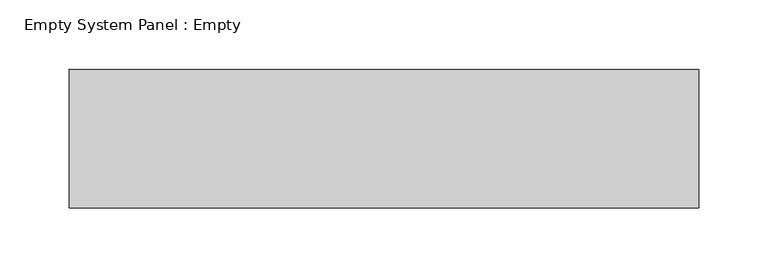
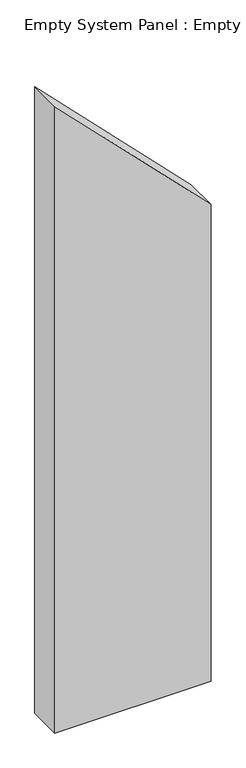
"""IFC4 building model written with IfcOpenShell, lengths in millimetres: plate geometry, Empty System Panel : Empty."""

from ifc_helpers import new_model, si_unit, frame, origin, place, context, project, spatial, polyline, outline, extrude, source, transform, mapped, element, save


def empty_system_panel_empty_76e15c6c(model_context):
    return source(origin(), model_context, "Body", "SweptSolid", [
        extrude(outline(polyline([(0.0, -226.4404253), (0.0, 226.4404253), (1458.5226463, 226.4404253), (1916.4700656, -226.4404253), (0.0, -226.4404253)])), frame((0.0, -50.0, 0.0), z_axis=(0.0, 1.0, 0.0), x_axis=(0.0, 0.0, 1.0)), (0.0, 0.0, 1.0), 100.0),
    ])


if __name__ == "__main__":
    model = new_model("IFC4")
    model_context = context("Model", 3, world=origin())
    ifc_project = project(units=[si_unit("LENGTHUNIT", "METRE", prefix="MILLI")], contexts=[model_context])
    site = spatial("IfcSite", under=ifc_project)
    building = spatial("IfcBuilding", under=site)
    placement = place(None, origin())
    empty_system_panel_empty_shape = empty_system_panel_empty_76e15c6c(model_context)
    element("IfcPlate", 1, ObjectType="Empty System Panel : Empty", at=placement, inside=building, context=model_context, shape_type="MappedRepresentation", body=[
        mapped(empty_system_panel_empty_shape, transform((0.0, 0.0, 0.0), x_axis=(1.0, 0.0, 0.0), y_axis=(0.0, 1.0, 0.0), z_axis=(0.0, 0.0, 1.0))),
    ])
    save(model, "model.ifc")
